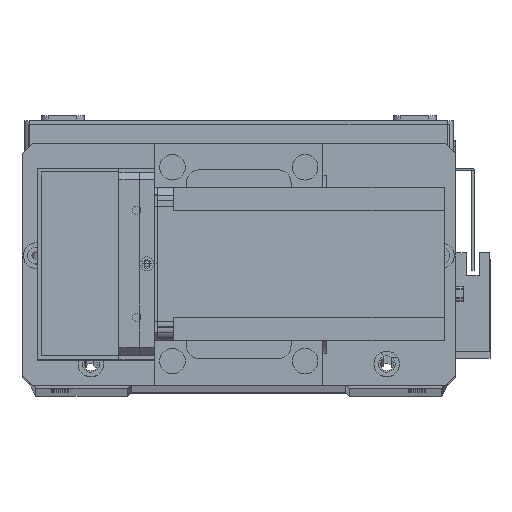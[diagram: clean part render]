
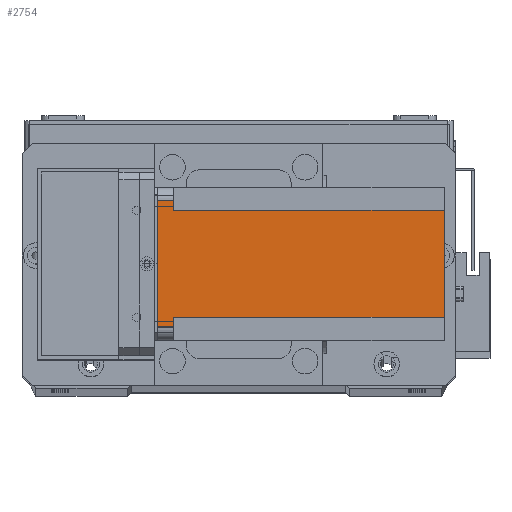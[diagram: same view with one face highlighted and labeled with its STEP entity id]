
A CAD part, top view. The second image highlights one B-rep face of the part: STEP entity #2754.
In plain terms, the highlighted planar face has unit normal (0, 0, 1) as drawn and (-1, 0, 0) by its records, which use the part's own axes.
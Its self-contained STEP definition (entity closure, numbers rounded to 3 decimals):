
#595 = DIRECTION ( 'NONE',  ( 0., 1., 0. ) ) ;
#847 = VECTOR ( 'NONE', #10814, 1000. ) ;
#948 = DIRECTION ( 'NONE',  ( 0., 0., 1. ) ) ;
#1038 = EDGE_CURVE ( 'NONE', #14708, #16537, #5142, .T. ) ;
#1508 = EDGE_CURVE ( 'NONE', #20634, #16537, #18625, .T. ) ;
#2063 = CARTESIAN_POINT ( 'NONE',  ( 0., 5., -112.5 ) ) ;
#2519 = CARTESIAN_POINT ( 'NONE',  ( 0., 55., -6.5 ) ) ;
#2531 = CARTESIAN_POINT ( 'NONE',  ( 0., 51., -6.5 ) ) ;
#2714 = PLANE ( 'NONE',  #22259 ) ;
#2754 = ADVANCED_FACE ( 'NONE', ( #14984 ), #2714, .T. ) ;
#2982 = LINE ( 'NONE', #13356, #8940 ) ;
#3684 = EDGE_CURVE ( 'NONE', #14708, #23352, #2982, .T. ) ;
#3840 = CARTESIAN_POINT ( 'NONE',  ( 0., 9., -112.5 ) ) ;
#4181 = CARTESIAN_POINT ( 'NONE',  ( 0., 0., -6.5 ) ) ;
#4709 = LINE ( 'NONE', #30229, #29368 ) ;
#5142 = LINE ( 'NONE', #18508, #11088 ) ;
#5258 = DIRECTION ( 'NONE',  ( -1., 0., 0. ) ) ;
#5413 = LINE ( 'NONE', #8037, #24905 ) ;
#5532 = CARTESIAN_POINT ( 'NONE',  ( 0., 5., -6.5 ) ) ;
#6723 = DIRECTION ( 'NONE',  ( 0., 1., 0. ) ) ;
#6894 = EDGE_CURVE ( 'NONE', #28244, #23352, #5413, .T. ) ;
#7646 = EDGE_CURVE ( 'NONE', #20634, #21028, #17686, .T. ) ;
#8037 = CARTESIAN_POINT ( 'NONE',  ( 0., 60., -6.5 ) ) ;
#8426 = ORIENTED_EDGE ( 'NONE', *, *, #3684, .T. ) ;
#8940 = VECTOR ( 'NONE', #20985, 1000. ) ;
#8975 = CARTESIAN_POINT ( 'NONE',  ( 0., 5., 0. ) ) ;
#9844 = DIRECTION ( 'NONE',  ( 0., -1., 0. ) ) ;
#10535 = ORIENTED_EDGE ( 'NONE', *, *, #7646, .F. ) ;
#10814 = DIRECTION ( 'NONE',  ( 0., 0., 1. ) ) ;
#10912 = VECTOR ( 'NONE', #6723, 1000. ) ;
#11088 = VECTOR ( 'NONE', #15215, 1000. ) ;
#11860 = VECTOR ( 'NONE', #948, 1000. ) ;
#12147 = CARTESIAN_POINT ( 'NONE',  ( 0., 9., -112.5 ) ) ;
#12394 = ORIENTED_EDGE ( 'NONE', *, *, #6894, .F. ) ;
#13356 = CARTESIAN_POINT ( 'NONE',  ( 0., 55., -112.5 ) ) ;
#13404 = CARTESIAN_POINT ( 'NONE',  ( 0., 51., -112.5 ) ) ;
#14405 = LINE ( 'NONE', #13404, #847 ) ;
#14708 = VERTEX_POINT ( 'NONE', #16814 ) ;
#14824 = DIRECTION ( 'NONE',  ( 0., 0., -1. ) ) ;
#14841 = EDGE_CURVE ( 'NONE', #21028, #23721, #30436, .T. ) ;
#14984 = FACE_OUTER_BOUND ( 'NONE', #26760, .T. ) ;
#15215 = DIRECTION ( 'NONE',  ( 0., -1., 0. ) ) ;
#16537 = VERTEX_POINT ( 'NONE', #8975 ) ;
#16814 = CARTESIAN_POINT ( 'NONE',  ( 0., 55., 0. ) ) ;
#17686 = LINE ( 'NONE', #4181, #10912 ) ;
#17724 = ORIENTED_EDGE ( 'NONE', *, *, #1508, .T. ) ;
#18311 = VERTEX_POINT ( 'NONE', #30098 ) ;
#18508 = CARTESIAN_POINT ( 'NONE',  ( 0., 0., 0. ) ) ;
#18625 = LINE ( 'NONE', #2063, #11860 ) ;
#20634 = VERTEX_POINT ( 'NONE', #5532 ) ;
#20985 = DIRECTION ( 'NONE',  ( 0., 0., -1. ) ) ;
#21028 = VERTEX_POINT ( 'NONE', #30104 ) ;
#22259 = AXIS2_PLACEMENT_3D ( 'NONE', #25487, #5258, #23030 ) ;
#23030 = DIRECTION ( 'NONE',  ( 0., -1., 0. ) ) ;
#23352 = VERTEX_POINT ( 'NONE', #2519 ) ;
#23536 = EDGE_CURVE ( 'NONE', #18311, #28244, #14405, .T. ) ;
#23554 = ORIENTED_EDGE ( 'NONE', *, *, #26083, .T. ) ;
#23721 = VERTEX_POINT ( 'NONE', #3840 ) ;
#24675 = ORIENTED_EDGE ( 'NONE', *, *, #23536, .F. ) ;
#24905 = VECTOR ( 'NONE', #595, 1000. ) ;
#25487 = CARTESIAN_POINT ( 'NONE',  ( 0., 0., -112.5 ) ) ;
#26083 = EDGE_CURVE ( 'NONE', #18311, #23721, #4709, .T. ) ;
#26760 = EDGE_LOOP ( 'NONE', ( #10535, #17724, #30602, #8426, #12394, #24675, #23554, #32364 ) ) ;
#28244 = VERTEX_POINT ( 'NONE', #2531 ) ;
#29368 = VECTOR ( 'NONE', #9844, 1000. ) ;
#29635 = VECTOR ( 'NONE', #14824, 1000. ) ;
#30098 = CARTESIAN_POINT ( 'NONE',  ( 0., 51., -112.5 ) ) ;
#30104 = CARTESIAN_POINT ( 'NONE',  ( 0., 9., -6.5 ) ) ;
#30229 = CARTESIAN_POINT ( 'NONE',  ( 0., 0., -112.5 ) ) ;
#30436 = LINE ( 'NONE', #12147, #29635 ) ;
#30602 = ORIENTED_EDGE ( 'NONE', *, *, #1038, .F. ) ;
#32364 = ORIENTED_EDGE ( 'NONE', *, *, #14841, .F. ) ;
